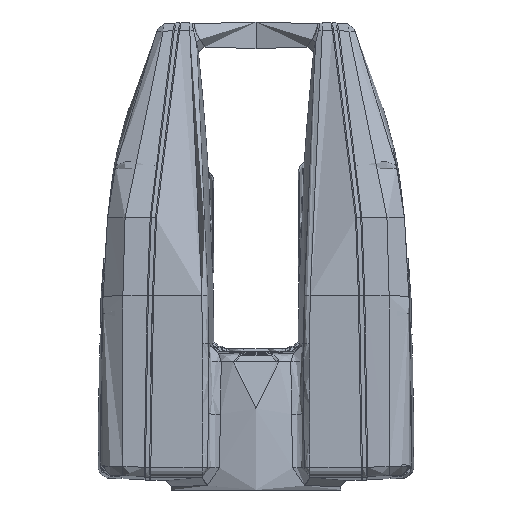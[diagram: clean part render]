
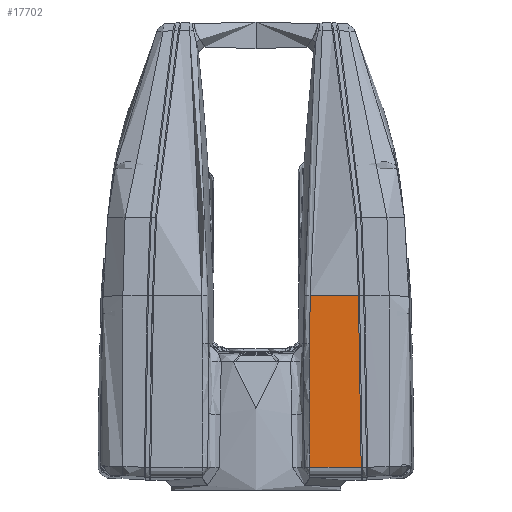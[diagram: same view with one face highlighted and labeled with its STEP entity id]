
A CAD part, front view. The second image highlights one B-rep face of the part: STEP entity #17702.
In plain terms, the highlighted cylindrical face has radius 5000 mm (diameter 10000 mm), a partial arc.
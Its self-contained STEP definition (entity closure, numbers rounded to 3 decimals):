
#11915=CYLINDRICAL_SURFACE('',#42327,5000.);
#12054=ELLIPSE('',#42326,5012.185,5000.);
#13108=FACE_OUTER_BOUND('',#20082,.T.);
#15368=LINE('',#56526,#16409);
#15369=LINE('',#56545,#16410);
#16409=VECTOR('',#43615,1.);
#16410=VECTOR('',#43620,1.);
#17702=ADVANCED_FACE('',(#13108),#11915,.T.);
#20082=EDGE_LOOP('',(#22860,#22861,#22862,#22863,#22864,#22865));
#22860=ORIENTED_EDGE('',*,*,#35287,.T.);
#22861=ORIENTED_EDGE('',*,*,#35288,.T.);
#22862=ORIENTED_EDGE('',*,*,#35289,.T.);
#22863=ORIENTED_EDGE('',*,*,#35290,.F.);
#22864=ORIENTED_EDGE('',*,*,#35291,.F.);
#22865=ORIENTED_EDGE('',*,*,#35284,.F.);
#32040=VERTEX_POINT('',#56525);
#32041=VERTEX_POINT('',#56527);
#32043=VERTEX_POINT('',#56539);
#32044=VERTEX_POINT('',#56544);
#32045=VERTEX_POINT('',#56546);
#32046=VERTEX_POINT('',#56551);
#35284=EDGE_CURVE('',#32040,#32041,#15368,.T.);
#35287=EDGE_CURVE('',#32040,#32043,#39673,.T.);
#35288=EDGE_CURVE('',#32043,#32044,#39674,.T.);
#35289=EDGE_CURVE('',#32044,#32045,#15369,.T.);
#35290=EDGE_CURVE('',#32046,#32045,#39675,.T.);
#35291=EDGE_CURVE('',#32041,#32046,#12054,.T.);
#39673=B_SPLINE_CURVE_WITH_KNOTS('',3,(#56535,#56536,#56537,#56538),
 .UNSPECIFIED.,.F.,.F.,(4,4),(0.,1.),.UNSPECIFIED.);
#39674=B_SPLINE_CURVE_WITH_KNOTS('',3,(#56540,#56541,#56542,#56543),
 .UNSPECIFIED.,.F.,.F.,(4,4),(0.,1.),.UNSPECIFIED.);
#39675=B_SPLINE_CURVE_WITH_KNOTS('',3,(#56547,#56548,#56549,#56550),
 .UNSPECIFIED.,.F.,.F.,(4,4),(0.,1.),.UNSPECIFIED.);
#42326=AXIS2_PLACEMENT_3D('',#56552,#43621,#43622);
#42327=AXIS2_PLACEMENT_3D('',#56553,#43623,#43624);
#43615=DIRECTION('',(-1.,0.,0.));
#43620=DIRECTION('',(-1.,0.,0.));
#43621=DIRECTION('',(-0.998,-0.07,0.));
#43622=DIRECTION('',(-0.07,0.998,0.));
#43623=DIRECTION('',(-1.,0.,0.));
#43624=DIRECTION('',(0.,0.,1.));
#56525=CARTESIAN_POINT('',(86.99,-69.994,-202.328));
#56526=CARTESIAN_POINT('',(100.,-69.994,-202.323));
#56527=CARTESIAN_POINT('',(44.557,-69.994,-202.323));
#56535=CARTESIAN_POINT('',(86.989,-69.994,-202.323));
#56536=CARTESIAN_POINT('',(86.887,-69.921,-154.903));
#56537=CARTESIAN_POINT('',(86.111,-69.174,-107.487));
#56538=CARTESIAN_POINT('',(84.66,-67.753,-60.11));
#56539=CARTESIAN_POINT('',(84.66,-67.753,-60.11));
#56540=CARTESIAN_POINT('',(84.66,-67.753,-60.11));
#56541=CARTESIAN_POINT('',(84.659,-67.752,-60.073));
#56542=CARTESIAN_POINT('',(84.658,-67.751,-60.037));
#56543=CARTESIAN_POINT('',(84.657,-67.749,-60.));
#56544=CARTESIAN_POINT('',(84.657,-67.749,-60.));
#56545=CARTESIAN_POINT('',(100.,-67.749,-60.));
#56546=CARTESIAN_POINT('',(44.747,-67.749,-60.));
#56547=CARTESIAN_POINT('',(44.473,-68.787,-99.89));
#56548=CARTESIAN_POINT('',(44.452,-68.494,-86.591));
#56549=CARTESIAN_POINT('',(44.544,-68.149,-73.294));
#56550=CARTESIAN_POINT('',(44.747,-67.749,-60.));
#56551=CARTESIAN_POINT('',(44.473,-68.787,-99.89));
#56552=CARTESIAN_POINT('',(-304.727,4930.,-210.));
#56553=CARTESIAN_POINT('',(100.,4930.,-210.));
